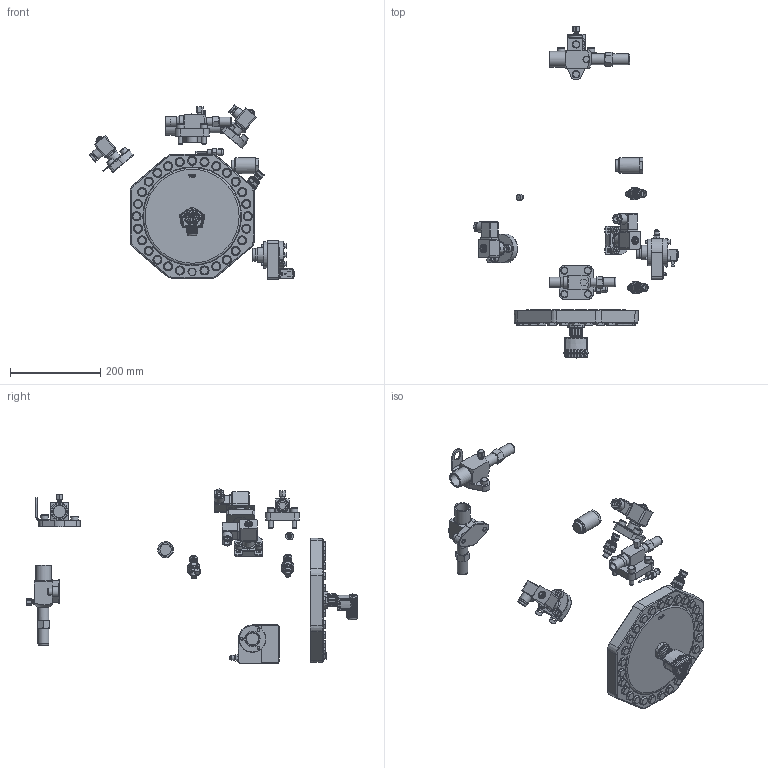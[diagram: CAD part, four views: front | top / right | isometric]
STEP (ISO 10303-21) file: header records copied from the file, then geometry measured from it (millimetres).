
FILE_DESCRIPTION(/* description */ (''),/* implementation_level */ '2;1');
FILE_NAME(/* name */ '4JTE-HTE-GTE-FTE-DTE-CTE-OPT.stp',/* time_stamp */ '2023-12-13T09:15:46+01:00',/* author */ (''),/* organization */ (''),/* preprocessor_version */ 'ST-DEVELOPER v19.3',/* originating_system */ 'SIEMENS PLM Software NX2212.3001',/* authorisation */ '');
FILE_SCHEMA (('AUTOMOTIVE_DESIGN { 1 0 10303 214 3 1 1 1 }'));
Products named in the file (11): PRESSURE-TEMPERATURE-SENSORS; IQ-PLUG; OIL-LEVEL-MONITORING-OLM-IQ-2; SOLENOID-VALVE-CAPACTIY-REGULA; SHUT-OFF-VALVE-PS100-DN25; BEARING-COVER-OLCK1; BEARING-COVER-SIGHT-GLASS; SHUT-OFF-VALVE-DN16; PROTECTIVE-CAP-F-PRESS-SAF; VALVE-COMPLETE-D28-LA66; 4JTE-HTE-GTE-FTE-DTE-CTE-OPT
Assembly tree (11 placements, depth 2):
  4JTE-HTE-GTE-FTE-DTE-CTE-OPT
    VALVE-COMPLETE-D28-LA66
    PROTECTIVE-CAP-F-PRESS-SAF
    SHUT-OFF-VALVE-DN16
    BEARING-COVER-SIGHT-GLASS
    BEARING-COVER-OLCK1
    SHUT-OFF-VALVE-PS100-DN25
    SOLENOID-VALVE-CAPACTIY-REGULA  x2
    OIL-LEVEL-MONITORING-OLM-IQ-2
    IQ-PLUG
    PRESSURE-TEMPERATURE-SENSORS
Bounding box: 455.3 x 734.5 x 386.49 mm (x, y, z)
Volume: 5127461.7 mm3; surface area: 570825.9 mm2
Topology: 15 solids, 30 shells, 3930 faces, 9515 edges, 5906 vertices
Faces by surface type: plane 1796, cylinder 815, cone 696, bspline 287, torus 273, sphere 39, extrusion 24
Full cylindrical faces by diameter (mm): 1.5 x3, 1.8 x3, 2 x2, 2.5 x1, 3.5 x4, 4 x1, 5 x2, 6 x6, 6.5 x3, 7 x2, 7.8 x1, 8 x2, 8.5 x1, 9 x6, 9.342 x1, 9.65 x2, 10 x11, 10.287 x1, 10.29 x1, 10.72 x2, 10.835 x2, 11 x2, 11.113 x1, 12 x1, 12.494 x1, 13 x4, 13.4 x1, 14.63 x64, 16 x18, 16.1 x1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
Entity records: 132324 total; most frequent: CARTESIAN_POINT 38766, ORIENTED_EDGE 16528, DIRECTION 15566, EDGE_CURVE 8264, AXIS2_PLACEMENT_3D 6067, VERTEX_POINT 5331, EDGE_LOOP 4412, ADVANCED_FACE 3681
